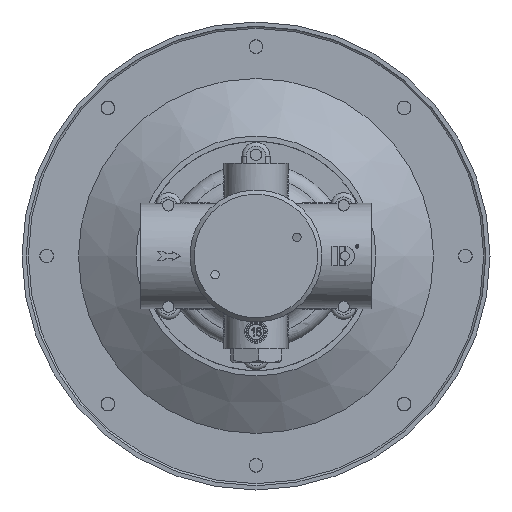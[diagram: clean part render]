
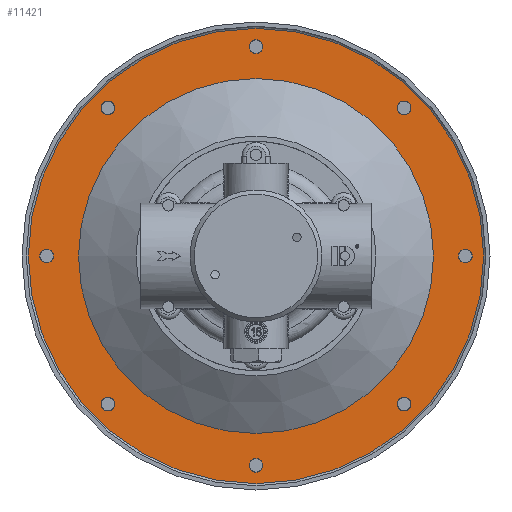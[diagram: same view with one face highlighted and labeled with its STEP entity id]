
A CAD part, front view. The second image highlights one B-rep face of the part: STEP entity #11421.
In plain terms, the highlighted planar face has unit normal (0, -1, 0).
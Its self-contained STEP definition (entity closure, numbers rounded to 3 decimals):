
#1453=FACE_BOUND('',#3780,.T.);
#1454=FACE_BOUND('',#3781,.T.);
#1455=FACE_BOUND('',#3782,.T.);
#1456=FACE_BOUND('',#3783,.T.);
#1457=FACE_BOUND('',#3784,.T.);
#1458=FACE_BOUND('',#3785,.T.);
#1459=FACE_BOUND('',#3786,.T.);
#1460=FACE_BOUND('',#3787,.T.);
#1461=FACE_BOUND('',#3788,.T.);
#3073=FACE_OUTER_BOUND('',#3779,.T.);
#3779=EDGE_LOOP('',(#9584));
#3780=EDGE_LOOP('',(#9585));
#3781=EDGE_LOOP('',(#9586));
#3782=EDGE_LOOP('',(#9587));
#3783=EDGE_LOOP('',(#9588));
#3784=EDGE_LOOP('',(#9589));
#3785=EDGE_LOOP('',(#9590));
#3786=EDGE_LOOP('',(#9591));
#3787=EDGE_LOOP('',(#9592));
#3788=EDGE_LOOP('',(#9593));
#4512=CIRCLE('',#12765,2.459);
#4515=CIRCLE('',#12770,2.459);
#4518=CIRCLE('',#12775,2.459);
#4521=CIRCLE('',#12780,2.459);
#4524=CIRCLE('',#12785,2.459);
#4527=CIRCLE('',#12790,2.459);
#4530=CIRCLE('',#12795,2.459);
#4533=CIRCLE('',#12800,2.459);
#4550=CIRCLE('',#12834,81.);
#4551=CIRCLE('',#12836,63.147);
#5483=VERTEX_POINT('',#22537);
#5486=VERTEX_POINT('',#22547);
#5489=VERTEX_POINT('',#22557);
#5492=VERTEX_POINT('',#22567);
#5495=VERTEX_POINT('',#22577);
#5498=VERTEX_POINT('',#22587);
#5501=VERTEX_POINT('',#22597);
#5504=VERTEX_POINT('',#22607);
#5520=VERTEX_POINT('',#22665);
#5521=VERTEX_POINT('',#22669);
#6883=EDGE_CURVE('',#5483,#5483,#4512,.T.);
#6888=EDGE_CURVE('',#5486,#5486,#4515,.T.);
#6893=EDGE_CURVE('',#5489,#5489,#4518,.T.);
#6898=EDGE_CURVE('',#5492,#5492,#4521,.T.);
#6903=EDGE_CURVE('',#5495,#5495,#4524,.T.);
#6908=EDGE_CURVE('',#5498,#5498,#4527,.T.);
#6913=EDGE_CURVE('',#5501,#5501,#4530,.T.);
#6918=EDGE_CURVE('',#5504,#5504,#4533,.T.);
#6943=EDGE_CURVE('',#5520,#5520,#4550,.T.);
#6945=EDGE_CURVE('',#5521,#5521,#4551,.T.);
#9584=ORIENTED_EDGE('',*,*,#6943,.T.);
#9585=ORIENTED_EDGE('',*,*,#6893,.T.);
#9586=ORIENTED_EDGE('',*,*,#6883,.T.);
#9587=ORIENTED_EDGE('',*,*,#6908,.T.);
#9588=ORIENTED_EDGE('',*,*,#6918,.T.);
#9589=ORIENTED_EDGE('',*,*,#6913,.T.);
#9590=ORIENTED_EDGE('',*,*,#6903,.T.);
#9591=ORIENTED_EDGE('',*,*,#6898,.T.);
#9592=ORIENTED_EDGE('',*,*,#6888,.T.);
#9593=ORIENTED_EDGE('',*,*,#6945,.F.);
#10952=PLANE('',#12835);
#11421=ADVANCED_FACE('',(#3073,#1453,#1454,#1455,#1456,#1457,#1458,#1459,
#1460,#1461),#10952,.T.);
#12765=AXIS2_PLACEMENT_3D('',#22538,#15264,#15265);
#12770=AXIS2_PLACEMENT_3D('',#22548,#15276,#15277);
#12775=AXIS2_PLACEMENT_3D('',#22558,#15288,#15289);
#12780=AXIS2_PLACEMENT_3D('',#22568,#15300,#15301);
#12785=AXIS2_PLACEMENT_3D('',#22578,#15312,#15313);
#12790=AXIS2_PLACEMENT_3D('',#22588,#15324,#15325);
#12795=AXIS2_PLACEMENT_3D('',#22598,#15336,#15337);
#12800=AXIS2_PLACEMENT_3D('',#22608,#15348,#15349);
#12834=AXIS2_PLACEMENT_3D('',#22666,#15424,#15425);
#12835=AXIS2_PLACEMENT_3D('',#22668,#15427,#15428);
#12836=AXIS2_PLACEMENT_3D('',#22670,#15429,#15430);
#15264=DIRECTION('center_axis',(0.,1.,0.));
#15265=DIRECTION('ref_axis',(1.,0.,0.));
#15276=DIRECTION('center_axis',(0.,1.,0.));
#15277=DIRECTION('ref_axis',(1.,0.,0.));
#15288=DIRECTION('center_axis',(0.,1.,0.));
#15289=DIRECTION('ref_axis',(1.,0.,0.));
#15300=DIRECTION('center_axis',(0.,1.,0.));
#15301=DIRECTION('ref_axis',(1.,0.,0.));
#15312=DIRECTION('center_axis',(0.,1.,0.));
#15313=DIRECTION('ref_axis',(1.,0.,0.));
#15324=DIRECTION('center_axis',(0.,1.,0.));
#15325=DIRECTION('ref_axis',(1.,0.,0.));
#15336=DIRECTION('center_axis',(0.,1.,0.));
#15337=DIRECTION('ref_axis',(1.,0.,0.));
#15348=DIRECTION('center_axis',(0.,1.,0.));
#15349=DIRECTION('ref_axis',(1.,0.,0.));
#15424=DIRECTION('center_axis',(0.,-1.,0.));
#15425=DIRECTION('ref_axis',(1.,0.,0.));
#15427=DIRECTION('center_axis',(0.,-1.,0.));
#15428=DIRECTION('ref_axis',(0.,0.,
-1.));
#15429=DIRECTION('center_axis',(0.,-1.,0.));
#15430=DIRECTION('ref_axis',(1.,0.,0.));
#22537=CARTESIAN_POINT('',(-2.459,13.3,74.5));
#22538=CARTESIAN_POINT('Origin',(0.,13.3,74.5));
#22547=CARTESIAN_POINT('',(-55.138,13.3,-52.679));
#22548=CARTESIAN_POINT('Origin',(-52.679,13.3,-52.679));
#22557=CARTESIAN_POINT('',(-76.959,13.3,0.));
#22558=CARTESIAN_POINT('Origin',(-74.5,13.3,0.));
#22567=CARTESIAN_POINT('',(-55.138,13.3,52.679));
#22568=CARTESIAN_POINT('Origin',(-52.679,13.3,52.679));
#22577=CARTESIAN_POINT('',(50.221,13.3,52.679));
#22578=CARTESIAN_POINT('Origin',(52.679,13.3,52.679));
#22587=CARTESIAN_POINT('',(72.042,13.3,0.));
#22588=CARTESIAN_POINT('Origin',(74.5,13.3,0.));
#22597=CARTESIAN_POINT('',(50.221,13.3,-52.679));
#22598=CARTESIAN_POINT('Origin',(52.679,13.3,-52.679));
#22607=CARTESIAN_POINT('',(-2.459,13.3,-74.5));
#22608=CARTESIAN_POINT('Origin',(0.,13.3,-74.5));
#22665=CARTESIAN_POINT('',(-81.,13.3,0.));
#22666=CARTESIAN_POINT('Origin',(0.,13.3,0.));
#22668=CARTESIAN_POINT('Origin',(63.147,13.3,0.));
#22669=CARTESIAN_POINT('',(-63.147,13.3,0.));
#22670=CARTESIAN_POINT('Origin',(0.,13.3,0.));
